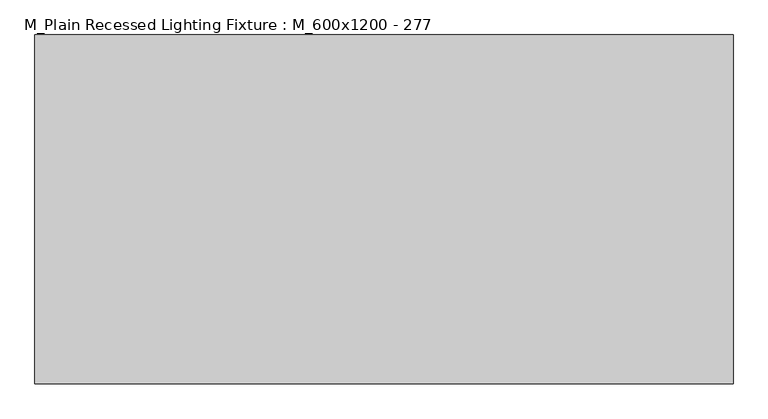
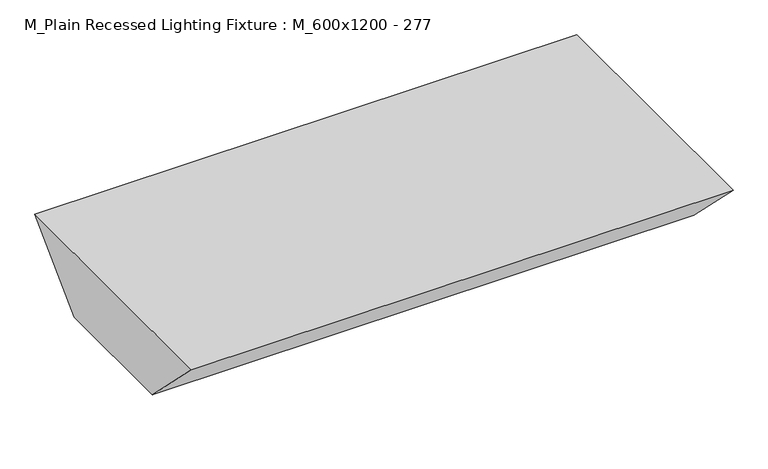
"""IFC4 building model written with IfcOpenShell, lengths in millimetres: light fixture geometry, M_Plain Recessed Lighting Fixture : M_600x1200 - 277."""

from ifc_helpers import new_model, si_unit, frame, origin, place, context, project, spatial, polyline, outline, extrude, source, transform, mapped, element, save


def m_plain_recessed_lighting_fixture_m_600x1200_277_dfd179b1(model_context):
    return source(origin(), model_context, "Body", "SweptSolid", [
        extrude(outline(polyline([(600.0, 0.0), (450.0, -150.0), (150.0, -150.0), (0.0, 0.0), (600.0, 0.0)])), frame((0.0, 0.0, 0.0), z_axis=(1.0, 0.0, 0.0), x_axis=(0.0, 1.0, 0.0)), (0.0, 0.0, 1.0), 1200.0),
    ])


if __name__ == "__main__":
    model = new_model("IFC4")
    model_context = context("Model", 3, world=origin())
    ifc_project = project(units=[si_unit("LENGTHUNIT", "METRE", prefix="MILLI")], contexts=[model_context])
    site = spatial("IfcSite", under=ifc_project)
    building = spatial("IfcBuilding", under=site)
    placement = place(None, origin())
    m_plain_recessed_lighting_fixture_m_600x1200_277_shape = m_plain_recessed_lighting_fixture_m_600x1200_277_dfd179b1(model_context)
    element("IfcLightFixture", 1, ObjectType="M_Plain Recessed Lighting Fixture : M_600x1200 - 277", at=placement, inside=building, context=model_context, shape_type="MappedRepresentation", body=[
        mapped(m_plain_recessed_lighting_fixture_m_600x1200_277_shape, transform((0.0, 0.0, 0.0), x_axis=(1.0, 0.0, 0.0), y_axis=(0.0, 1.0, 0.0), z_axis=(0.0, 0.0, 1.0))),
    ])
    save(model, "model.ifc")
